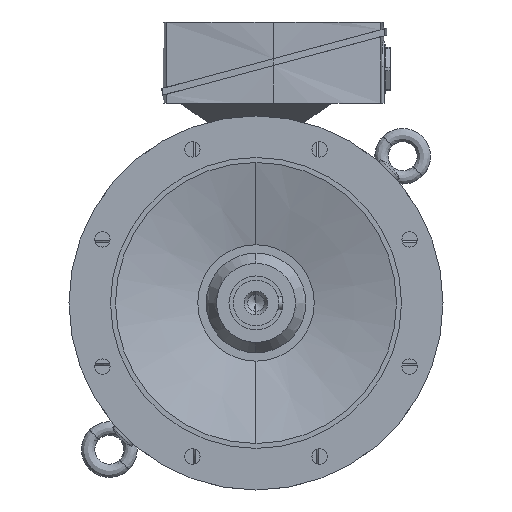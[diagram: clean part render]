
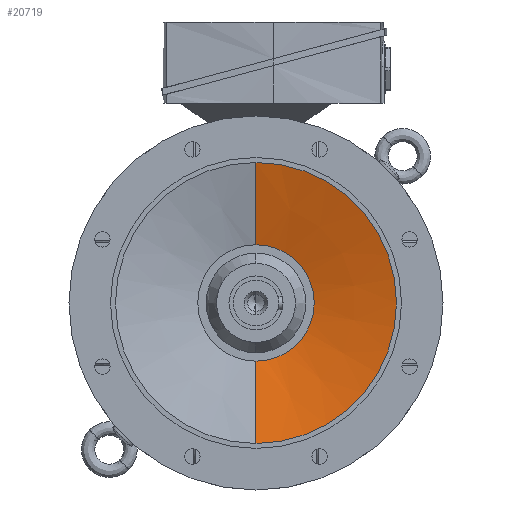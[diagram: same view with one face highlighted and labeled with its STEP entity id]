
A CAD part, left-side view. The second image highlights one B-rep face of the part: STEP entity #20719.
In plain terms, the highlighted conical face has half-angle 74.208 degrees and reference radius 169 mm.
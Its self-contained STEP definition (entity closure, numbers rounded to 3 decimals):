
#1465 = VECTOR ( 'NONE', #7931, 1000. ) ;
#1675 = ORIENTED_EDGE ( 'NONE', *, *, #22100, .T. ) ;
#2162 = CARTESIAN_POINT ( 'NONE',  ( -85., 0., -169. ) ) ;
#3368 = DIRECTION ( 'NONE',  ( -1., 0., 0. ) ) ;
#3637 = CARTESIAN_POINT ( 'NONE',  ( -57., 0., 0. ) ) ;
#4577 = CARTESIAN_POINT ( 'NONE',  ( -85., 0., 169. ) ) ;
#5904 = EDGE_LOOP ( 'NONE', ( #20501, #12114, #1675, #17208 ) ) ;
#6999 = DIRECTION ( 'NONE',  ( 0., 0., 1. ) ) ;
#7931 = DIRECTION ( 'NONE',  ( -0.272, 0., 0.962 ) ) ;
#8359 = DIRECTION ( 'NONE',  ( -1., 0., 0. ) ) ;
#8467 = VECTOR ( 'NONE', #8844, 1000. ) ;
#8844 = DIRECTION ( 'NONE',  ( -0.272, 0., -0.962 ) ) ;
#9428 = EDGE_CURVE ( 'NONE', #34167, #18869, #36496, .T. ) ;
#11905 = EDGE_CURVE ( 'NONE', #23338, #17057, #17276, .T. ) ;
#12114 = ORIENTED_EDGE ( 'NONE', *, *, #11905, .T. ) ;
#12303 = FACE_OUTER_BOUND ( 'NONE', #5904, .T. ) ;
#13463 = CARTESIAN_POINT ( 'NONE',  ( -57., 0., -70. ) ) ;
#17057 = VERTEX_POINT ( 'NONE', #35407 ) ;
#17208 = ORIENTED_EDGE ( 'NONE', *, *, #9428, .F. ) ;
#17223 = EDGE_CURVE ( 'NONE', #23338, #34167, #25132, .T. ) ;
#17276 = LINE ( 'NONE', #2162, #8467 ) ;
#18869 = VERTEX_POINT ( 'NONE', #21446 ) ;
#20501 = ORIENTED_EDGE ( 'NONE', *, *, #17223, .F. ) ;
#20719 = ADVANCED_FACE ( 'NONE', ( #12303 ), #35408, .F. ) ;
#20985 = CIRCLE ( 'NONE', #29621, 169. ) ;
#21446 = CARTESIAN_POINT ( 'NONE',  ( -85., 0., 169. ) ) ;
#22100 = EDGE_CURVE ( 'NONE', #17057, #18869, #20985, .T. ) ;
#23162 = CARTESIAN_POINT ( 'NONE',  ( -85., 0., 0. ) ) ;
#23338 = VERTEX_POINT ( 'NONE', #13463 ) ;
#23459 = AXIS2_PLACEMENT_3D ( 'NONE', #3637, #26749, #6999 ) ;
#25132 = CIRCLE ( 'NONE', #23459, 70. ) ;
#25963 = CARTESIAN_POINT ( 'NONE',  ( -57., 0., 70. ) ) ;
#26749 = DIRECTION ( 'NONE',  ( -1., 0., 0. ) ) ;
#28130 = CARTESIAN_POINT ( 'NONE',  ( -85., 0., 0. ) ) ;
#29621 = AXIS2_PLACEMENT_3D ( 'NONE', #28130, #8359, #31411 ) ;
#31411 = DIRECTION ( 'NONE',  ( 0., 0., 1. ) ) ;
#34167 = VERTEX_POINT ( 'NONE', #25963 ) ;
#35407 = CARTESIAN_POINT ( 'NONE',  ( -85., 0., -169. ) ) ;
#35408 = CONICAL_SURFACE ( 'NONE', #41616, 169., 1.295 ) ;
#36042 = DIRECTION ( 'NONE',  ( 0., 0., 1. ) ) ;
#36496 = LINE ( 'NONE', #4577, #1465 ) ;
#41616 = AXIS2_PLACEMENT_3D ( 'NONE', #23162, #3368, #36042 ) ;
